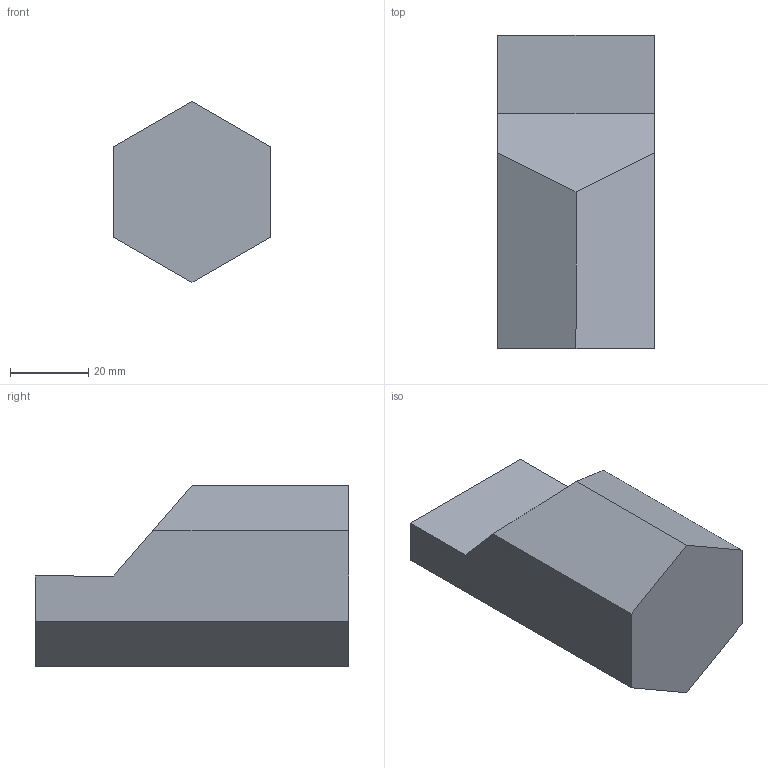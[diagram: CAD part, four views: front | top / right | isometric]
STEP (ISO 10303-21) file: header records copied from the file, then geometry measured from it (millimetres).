
FILE_DESCRIPTION(/* description */ ('','CAx-IF Rec.Pracs.---Representation and Presentation of Product Manufacturing Information (PMI)---4.0---2014-10-13'),/* implementation_level */ '2;1');
FILE_NAME(/* name */ '3.stp',/* time_stamp */ '2026-06-27T16:24:25+01:00',/* author */ ('hunte'),/* organization */ (''),/* preprocessor_version */ 'ST-DEVELOPER v20',/* originating_system */ 'Autodesk Inventor 2024',/* authorisation */ '');
FILE_SCHEMA (('AP242_MANAGED_MODEL_BASED_3D_ENGINEERING_MIM_LF { 1 0 10303 442 1 1 4 }'));
Length unit declared in the file: millimetre
Products named in the file (1): 3
Bounding box: 40 x 80 x 46.19 mm (x, y, z)
Volume: 91606.2 mm3; surface area: 12686.2 mm2
Topology: 1 solids, 1 shells, 10 faces, 24 edges, 16 vertices
Faces by surface type: plane 10
Entity records: 419 total; most frequent: DIRECTION 72, CARTESIAN_POINT 68, ORIENTED_EDGE 48, LINE 24, VECTOR 24, EDGE_CURVE 24, AXIS2_PLACEMENT_3D 24, VERTEX_POINT 16
